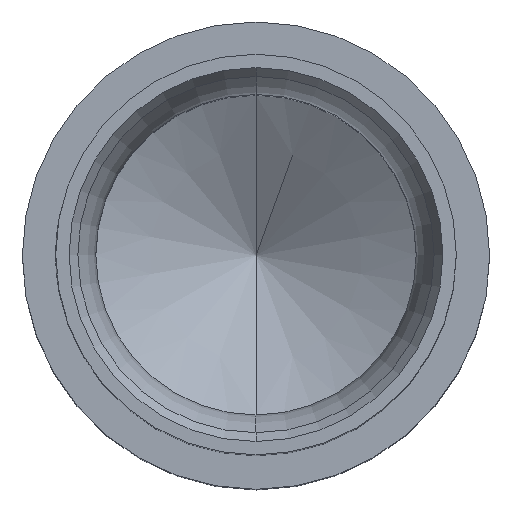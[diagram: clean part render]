
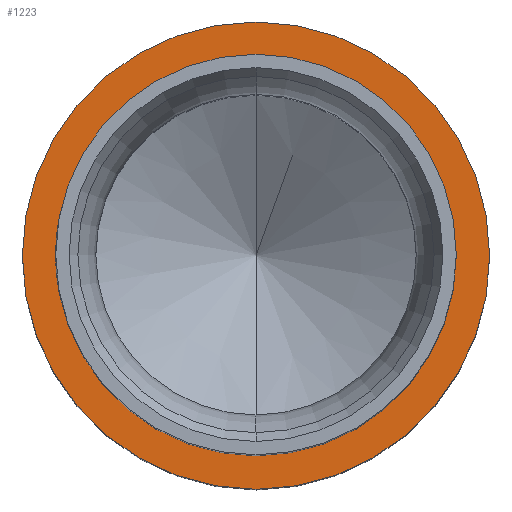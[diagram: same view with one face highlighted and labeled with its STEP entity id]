
A CAD part, top view. The second image highlights one B-rep face of the part: STEP entity #1223.
In plain terms, the highlighted planar face has unit normal (0, 0, 1).
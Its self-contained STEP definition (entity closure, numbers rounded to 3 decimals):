
#421=CARTESIAN_POINT('',(0.,0.,9.5));
#422=DIRECTION('',(0.,0.,1.));
#423=DIRECTION('',(0.,1.,0.));
#424=AXIS2_PLACEMENT_3D('',#421,#422,#423);
#426=CARTESIAN_POINT('',(0.,0.,9.5));
#427=DIRECTION('',(0.,0.,-1.));
#428=DIRECTION('',(0.,1.,0.));
#429=AXIS2_PLACEMENT_3D('',#426,#427,#428);
#431=CARTESIAN_POINT('',(0.,0.,9.5));
#432=DIRECTION('',(0.,0.,-1.));
#433=DIRECTION('',(0.,1.,0.));
#434=AXIS2_PLACEMENT_3D('',#431,#432,#433);
#444=CARTESIAN_POINT('',(0.,0.,9.5));
#445=DIRECTION('',(0.,0.,1.));
#446=DIRECTION('',(0.,1.,0.));
#447=AXIS2_PLACEMENT_3D('',#444,#445,#446);
#629=CARTESIAN_POINT('',(0.,1.3,9.5));
#631=VERTEX_POINT('',#629);
#641=CARTESIAN_POINT('',(0.,-1.3,9.5));
#643=VERTEX_POINT('',#641);
#651=CARTESIAN_POINT('',(0.,1.75,9.5));
#652=CARTESIAN_POINT('',(0.,-1.75,9.5));
#653=VERTEX_POINT('',#651);
#654=VERTEX_POINT('',#652);
#1208=CARTESIAN_POINT('',(0.,0.,9.5));
#1209=DIRECTION('',(0.,0.,-1.));
#1210=DIRECTION('',(0.,-1.,0.));
#1211=AXIS2_PLACEMENT_3D('',#1208,#1209,#1210);
#1212=PLANE('',#1211);
#1213=ORIENTED_EDGE('',*,*,#769,.F.);
#1214=ORIENTED_EDGE('',*,*,#755,.T.);
#1215=EDGE_LOOP('',(#1213,#1214));
#1216=FACE_OUTER_BOUND('',#1215,.F.);
#1218=ORIENTED_EDGE('',*,*,#1217,.F.);
#1220=ORIENTED_EDGE('',*,*,#1219,.T.);
#1221=EDGE_LOOP('',(#1218,#1220));
#1222=FACE_BOUND('',#1221,.F.);
#425=CIRCLE('',#424,1.75);
#430=CIRCLE('',#429,1.75);
#435=CIRCLE('',#434,1.3);
#448=CIRCLE('',#447,1.3);
#755=EDGE_CURVE('',#653,#654,#430,.T.);
#769=EDGE_CURVE('',#653,#654,#425,.T.);
#1217=EDGE_CURVE('',#631,#643,#435,.T.);
#1219=EDGE_CURVE('',#631,#643,#448,.T.);
#1223=ADVANCED_FACE('',(#1216,#1222),#1212,.F.);
